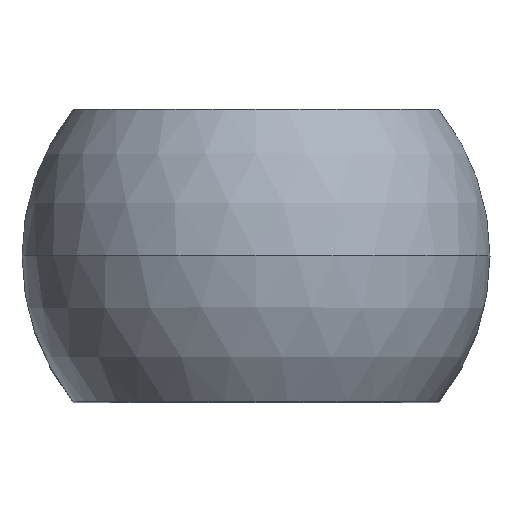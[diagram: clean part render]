
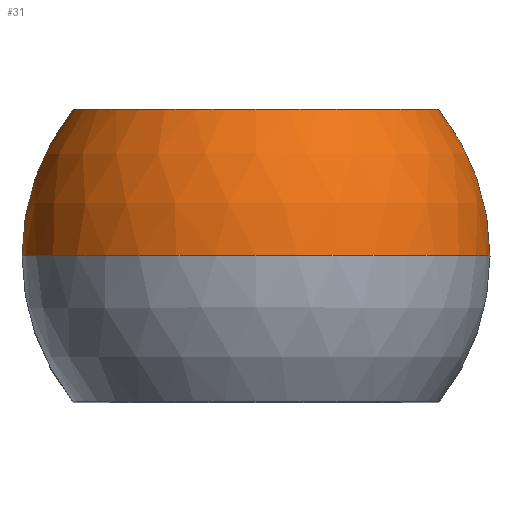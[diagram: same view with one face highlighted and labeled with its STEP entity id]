
A CAD part, top view. The second image highlights one B-rep face of the part: STEP entity #31.
In plain terms, the highlighted spherical face has radius 8 mm.
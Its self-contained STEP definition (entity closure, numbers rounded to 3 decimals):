
#3 = EDGE_CURVE ( 'NONE', #476, #511, #451, .T. ) ;
#31 = ADVANCED_FACE ( 'NONE', ( #134 ), #412, .T. ) ;
#43 = DIRECTION ( 'NONE',  ( 0., 1., 0. ) ) ;
#44 = DIRECTION ( 'NONE',  ( 0., -1., 0. ) ) ;
#80 = EDGE_LOOP ( 'NONE', ( #466, #370, #154, #128, #429 ) ) ;
#123 = AXIS2_PLACEMENT_3D ( 'NONE', #729, #43, #329 ) ;
#128 = ORIENTED_EDGE ( 'NONE', *, *, #294, .F. ) ;
#134 = FACE_OUTER_BOUND ( 'NONE', #80, .T. ) ;
#154 = ORIENTED_EDGE ( 'NONE', *, *, #618, .F. ) ;
#157 = CARTESIAN_POINT ( 'NONE',  ( 6.245, 5., 20. ) ) ;
#160 = AXIS2_PLACEMENT_3D ( 'NONE', #315, #548, #365 ) ;
#191 = CIRCLE ( 'NONE', #160, 6.245 ) ;
#194 = AXIS2_PLACEMENT_3D ( 'NONE', #460, #44, #519 ) ;
#271 = AXIS2_PLACEMENT_3D ( 'NONE', #703, #594, #405 ) ;
#273 = CARTESIAN_POINT ( 'NONE',  ( 0., 0., 20. ) ) ;
#290 = DIRECTION ( 'NONE',  ( 0., 0., -1. ) ) ;
#294 = EDGE_CURVE ( 'NONE', #379, #414, #191, .T. ) ;
#315 = CARTESIAN_POINT ( 'NONE',  ( 0., 5., 20. ) ) ;
#329 = DIRECTION ( 'NONE',  ( 0., 0., 1. ) ) ;
#330 = DIRECTION ( 'NONE',  ( 1., 0., 0. ) ) ;
#339 = CARTESIAN_POINT ( 'NONE',  ( -8., 0., 20. ) ) ;
#365 = DIRECTION ( 'NONE',  ( -1., 0., 0. ) ) ;
#370 = ORIENTED_EDGE ( 'NONE', *, *, #377, .T. ) ;
#377 = EDGE_CURVE ( 'NONE', #476, #740, #673, .T. ) ;
#379 = VERTEX_POINT ( 'NONE', #558 ) ;
#405 = DIRECTION ( 'NONE',  ( -1., 0., 0. ) ) ;
#412 = SPHERICAL_SURFACE ( 'NONE', #433, 8. ) ;
#414 = VERTEX_POINT ( 'NONE', #157 ) ;
#429 = ORIENTED_EDGE ( 'NONE', *, *, #668, .F. ) ;
#433 = AXIS2_PLACEMENT_3D ( 'NONE', #273, #579, #330 ) ;
#451 = CIRCLE ( 'NONE', #194, 8. ) ;
#460 = CARTESIAN_POINT ( 'NONE',  ( 0., 0., 20. ) ) ;
#466 = ORIENTED_EDGE ( 'NONE', *, *, #3, .F. ) ;
#471 = DIRECTION ( 'NONE',  ( -1., 0., 0. ) ) ;
#474 = CARTESIAN_POINT ( 'NONE',  ( 0., 0., 20. ) ) ;
#476 = VERTEX_POINT ( 'NONE', #561 ) ;
#511 = VERTEX_POINT ( 'NONE', #339 ) ;
#513 = AXIS2_PLACEMENT_3D ( 'NONE', #474, #290, #471 ) ;
#519 = DIRECTION ( 'NONE',  ( 1., 0., 0. ) ) ;
#548 = DIRECTION ( 'NONE',  ( 0., 1., 0. ) ) ;
#558 = CARTESIAN_POINT ( 'NONE',  ( -6.245, 5., 20. ) ) ;
#561 = CARTESIAN_POINT ( 'NONE',  ( 0., 0., 28. ) ) ;
#564 = CIRCLE ( 'NONE', #513, 8. ) ;
#579 = DIRECTION ( 'NONE',  ( 0., -1., 0. ) ) ;
#594 = DIRECTION ( 'NONE',  ( 0., 0., -1. ) ) ;
#618 = EDGE_CURVE ( 'NONE', #414, #740, #722, .T. ) ;
#668 = EDGE_CURVE ( 'NONE', #511, #379, #564, .T. ) ;
#670 = CARTESIAN_POINT ( 'NONE',  ( 8., 0., 20. ) ) ;
#673 = CIRCLE ( 'NONE', #123, 8. ) ;
#703 = CARTESIAN_POINT ( 'NONE',  ( 0., 0., 20. ) ) ;
#722 = CIRCLE ( 'NONE', #271, 8. ) ;
#729 = CARTESIAN_POINT ( 'NONE',  ( 0., 0., 20. ) ) ;
#740 = VERTEX_POINT ( 'NONE', #670 ) ;
